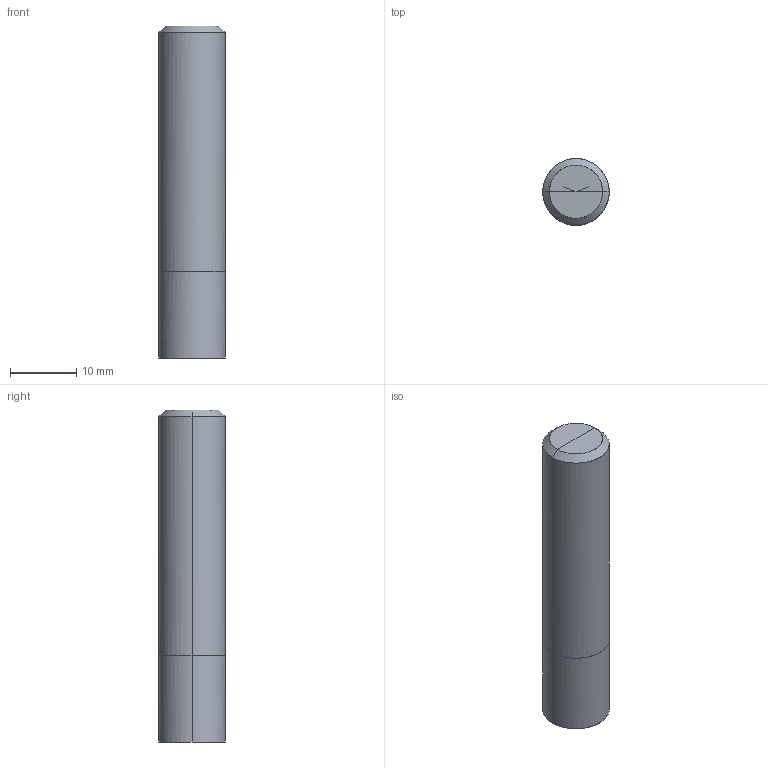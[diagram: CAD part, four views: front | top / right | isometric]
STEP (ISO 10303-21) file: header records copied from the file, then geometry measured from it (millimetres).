
FILE_DESCRIPTION(/* description */ (''),/* implementation_level */ '2;1');
FILE_NAME(/*name*/ '3152-10.0C',/*time_stamp*/'2021-6-22T11:16:47',/*author*/ ('ISBE GmbH'),/*organization*/ ('ISBE GmbH'),/*preprocessor_version*/ 'STEP IO v1.0',/*originating_system*/ '',/*authorisation*/ '');
FILE_SCHEMA (('AUTOMOTIVE_DESIGN'));
Length unit declared in the file: millimetre
Products named in the file (1): Document
Bounding box: 10 x 10 x 50 mm (x, y, z)
Surface area: 1867.9 mm2 (no closed solid volume)
Topology: 0 solids, 14 shells, 14 faces, 59 edges, 54 vertices
Faces by surface type: bspline 14
Entity records: 853 total; most frequent: CARTESIAN_POINT 584, VERTEX_POINT 48, EDGE_CURVE 48, ORIENTED_EDGE 48, DIRECTION 16, EDGE_LOOP 14, FACE_OUTER_BOUND 14, ADVANCED_FACE 14
